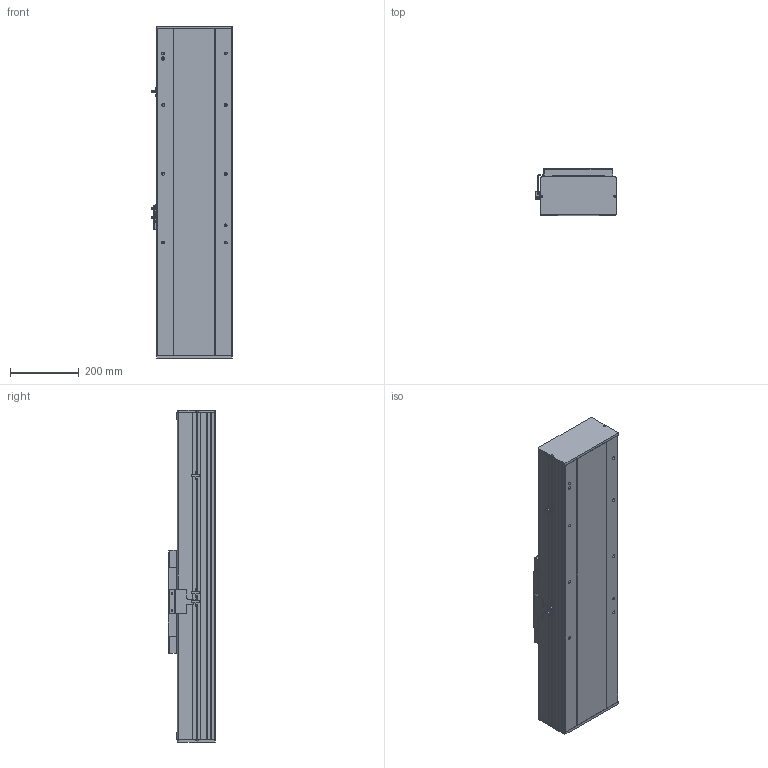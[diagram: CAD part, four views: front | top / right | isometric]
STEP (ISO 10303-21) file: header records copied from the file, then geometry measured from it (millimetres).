
FILE_DESCRIPTION (( 'STEP AP214' ), '1' );
FILE_NAME ('TPF22-350-M-P75.STEP', '2023-03-29T06:24:09', ( '' ), ( '' ), 'SwSTEP 2.0', 'SolidWorks 2020', '' );
FILE_SCHEMA (( 'AUTOMOTIVE_DESIGN' ));
Length unit declared in the file: millimetre
Products named in the file (6): TPF22-350-M-P75; 葩璃 詩湍150^TPF22-M-P75; 葩璃 pm-t65-672^TPF22-M-P75; 葩璃 TPF22-BC-001 菁釱MZ-220-01^TPF22-M-P75; 葩璃 TPF22-BC-002 耜裔ZTMZ-220-04^TPF22-M-P75; 葩璃 TPE22 賑雄殤^TPF22-M-P75
Assembly tree (8 placements, depth 2):
  TPF22-350-M-P75
    葩璃 TPF22-BC-001 菁釱MZ-220-01^TPF22-M-P75
    葩璃 TPF22-BC-002 耜裔ZTMZ-220-04^TPF22-M-P75  x2
    葩璃 TPE22 賑雄殤^TPF22-M-P75
    葩璃 詩湍150^TPF22-M-P75
    葩璃 pm-t65-672^TPF22-M-P75  x3
Bounding box: 233.7 x 138 x 966 mm (x, y, z)
Volume: 11451699 mm3; surface area: 1707556.4 mm2
Topology: 14 solids, 14 shells, 846 faces, 2263 edges, 1456 vertices
Faces by surface type: plane 570, cylinder 228, cone 40, bspline 8
Entity records: 19753 total; most frequent: CARTESIAN_POINT 3556, DIRECTION 3115, ORIENTED_EDGE 3090, EDGE_CURVE 1545, LINE 1109, VECTOR 1109, AXIS2_PLACEMENT_3D 1003, VERTEX_POINT 1000
